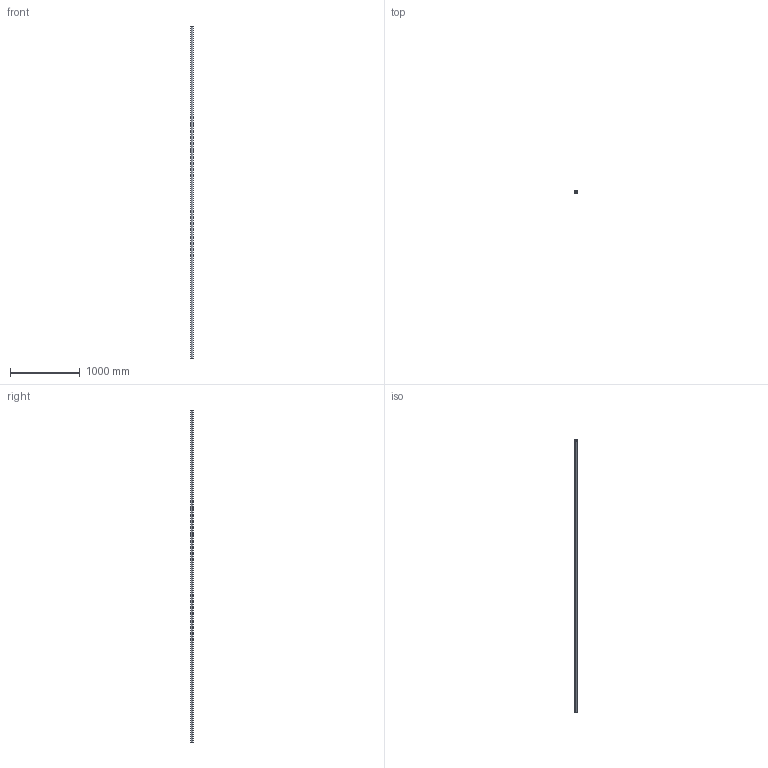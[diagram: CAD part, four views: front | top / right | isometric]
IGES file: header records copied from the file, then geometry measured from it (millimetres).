
Start section: SolidWorks IGES file using analytic representation for surfaces
Global section: file name: C:\Users\IanO\Desktop\L1771_v2\L1771.40_v2\L1771.40_v2_20230705_IGES\L1771.40-4750.igs; native system: SolidWorks 2019; preprocessor: SolidWorks 2019; author: IanO; date: 230705.162718; units: millimetre
Bounding box: 40 x 40 x 4750 mm (x, y, z)
Surface area: 1016016.2 mm2 (no closed solid volume)
Topology: 0 solids, 0 shells, 6 faces, 272 edges, 272 vertices
Faces by surface type: revolution 4, bspline 2
